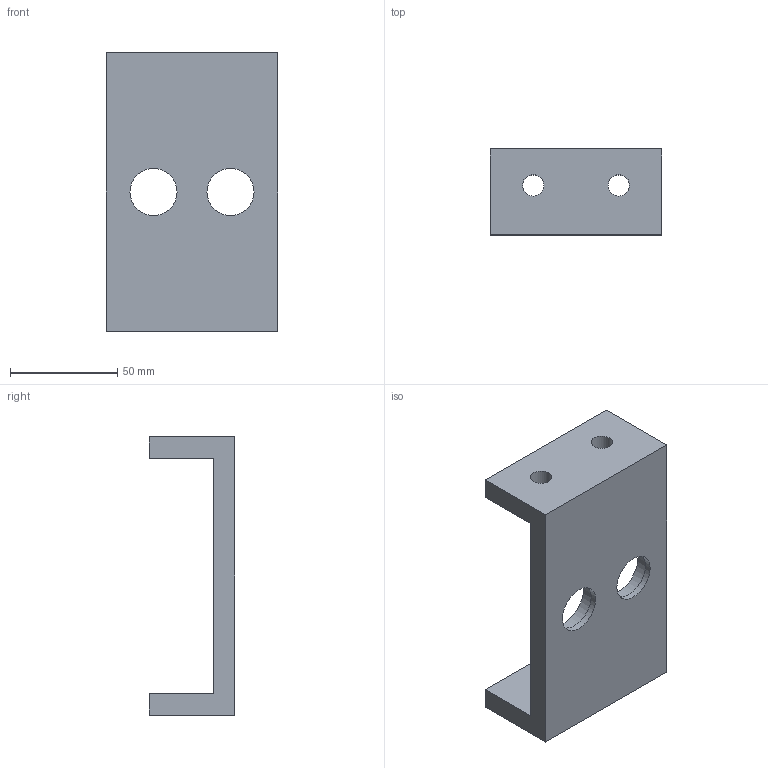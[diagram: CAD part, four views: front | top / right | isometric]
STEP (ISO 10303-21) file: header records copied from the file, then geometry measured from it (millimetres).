
FILE_DESCRIPTION(/* description */ (''),/* implementation_level */ '2;1');
FILE_NAME(/* name */ 'C:\Users\Jaime\Desktop\Universidad\MÁSTER ING. INDUSTRIAL\TFM\CD\PiezaI.stp',/* time_stamp */ '2018-02-16T00:01:02+01:00',/* author */ ('Jaime'),/* organization */ (''),/* preprocessor_version */ 'ST-DEVELOPER v16.5',/* originating_system */ 'Autodesk Inventor 2017',/* authorisation */ '');
FILE_SCHEMA (('AUTOMOTIVE_DESIGN { 1 0 10303 214 3 1 1 }'));
Length unit declared in the file: millimetre
Products named in the file (1): PiezaI
Bounding box: 80 x 40 x 130 mm (x, y, z)
Volume: 139144.6 mm3; surface area: 36466 mm2
Topology: 1 solids, 1 shells, 20 faces, 48 edges, 32 vertices
Faces by surface type: plane 12, cylinder 8
Full cylindrical faces by diameter (mm): 10 x4, 22 x2, 26 x2
Entity records: 596 total; most frequent: DIRECTION 98, CARTESIAN_POINT 93, ORIENTED_EDGE 80, EDGE_LOOP 42, EDGE_CURVE 40, AXIS2_PLACEMENT_3D 37, VERTEX_POINT 32, LINE 24
